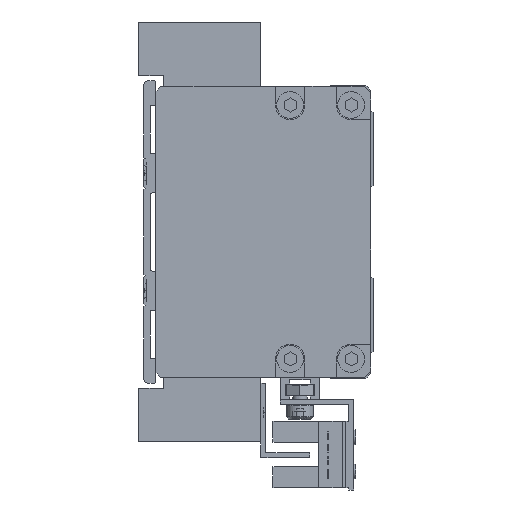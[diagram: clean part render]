
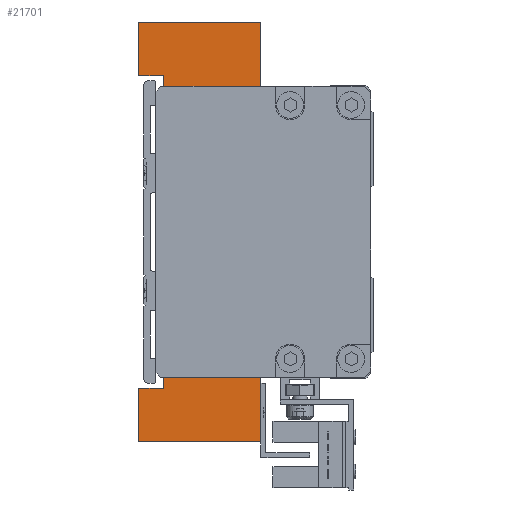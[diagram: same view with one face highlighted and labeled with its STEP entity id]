
A CAD part, left-side view. The second image highlights one B-rep face of the part: STEP entity #21701.
In plain terms, the highlighted planar face has unit normal (-1, 0, 0).
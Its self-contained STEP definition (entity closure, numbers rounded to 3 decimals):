
#416 = DIRECTION ( 'NONE',  ( 0., -1., 0. ) ) ;
#670 = CARTESIAN_POINT ( 'NONE',  ( -77., 0., -43. ) ) ;
#885 = DIRECTION ( 'NONE',  ( 0., 1., 0. ) ) ;
#915 = VERTEX_POINT ( 'NONE', #18609 ) ;
#1085 = VERTEX_POINT ( 'NONE', #670 ) ;
#1307 = ORIENTED_EDGE ( 'NONE', *, *, #30439, .F. ) ;
#1918 = ORIENTED_EDGE ( 'NONE', *, *, #12186, .F. ) ;
#2072 = CARTESIAN_POINT ( 'NONE',  ( -77., 25., 43. ) ) ;
#2617 = VECTOR ( 'NONE', #27243, 1000. ) ;
#2830 = CARTESIAN_POINT ( 'NONE',  ( -77., 25., 43. ) ) ;
#2872 = CARTESIAN_POINT ( 'NONE',  ( -77., 10., 0. ) ) ;
#3249 = ORIENTED_EDGE ( 'NONE', *, *, #38681, .F. ) ;
#3734 = VECTOR ( 'NONE', #27928, 1000. ) ;
#4198 = EDGE_CURVE ( 'NONE', #8208, #24149, #7198, .T. ) ;
#4497 = ORIENTED_EDGE ( 'NONE', *, *, #17192, .F. ) ;
#4557 = VERTEX_POINT ( 'NONE', #17381 ) ;
#5916 = VERTEX_POINT ( 'NONE', #36307 ) ;
#6155 = VERTEX_POINT ( 'NONE', #35054 ) ;
#6374 = VECTOR ( 'NONE', #32391, 1000. ) ;
#6476 = ORIENTED_EDGE ( 'NONE', *, *, #19368, .F. ) ;
#6596 = LINE ( 'NONE', #34447, #33443 ) ;
#6601 = LINE ( 'NONE', #8452, #2617 ) ;
#6798 = CARTESIAN_POINT ( 'NONE',  ( -77., 25., -32. ) ) ;
#6841 = VECTOR ( 'NONE', #17356, 1000. ) ;
#7198 = LINE ( 'NONE', #21580, #29603 ) ;
#7303 = LINE ( 'NONE', #13716, #15289 ) ;
#7795 = LINE ( 'NONE', #40515, #23751 ) ;
#8208 = VERTEX_POINT ( 'NONE', #35468 ) ;
#8452 = CARTESIAN_POINT ( 'NONE',  ( -77., 9., -21. ) ) ;
#8566 = LINE ( 'NONE', #12544, #34408 ) ;
#8587 = EDGE_CURVE ( 'NONE', #32828, #19436, #6596, .T. ) ;
#9003 = VECTOR ( 'NONE', #11705, 1000. ) ;
#9230 = VECTOR ( 'NONE', #18229, 1000. ) ;
#9699 = VERTEX_POINT ( 'NONE', #26197 ) ;
#9822 = EDGE_CURVE ( 'NONE', #19436, #30235, #21880, .T. ) ;
#9963 = CARTESIAN_POINT ( 'NONE',  ( -77., 0., 28. ) ) ;
#9986 = DIRECTION ( 'NONE',  ( 0., 0., -1. ) ) ;
#10412 = DIRECTION ( 'NONE',  ( 0., 0., 1. ) ) ;
#10501 = VERTEX_POINT ( 'NONE', #19192 ) ;
#10575 = VERTEX_POINT ( 'NONE', #26152 ) ;
#11034 = DIRECTION ( 'NONE',  ( 0., -1., 0. ) ) ;
#11705 = DIRECTION ( 'NONE',  ( 0., -1., 0. ) ) ;
#11737 = ORIENTED_EDGE ( 'NONE', *, *, #38495, .F. ) ;
#11884 = VECTOR ( 'NONE', #10412, 1000. ) ;
#12186 = EDGE_CURVE ( 'NONE', #21847, #5916, #23299, .T. ) ;
#12544 = CARTESIAN_POINT ( 'NONE',  ( -77., 9., -21. ) ) ;
#12608 = VECTOR ( 'NONE', #9986, 1000. ) ;
#12626 = PLANE ( 'NONE',  #25352 ) ;
#13265 = VERTEX_POINT ( 'NONE', #15009 ) ;
#13716 = CARTESIAN_POINT ( 'NONE',  ( -77., 10., 21. ) ) ;
#13821 = EDGE_CURVE ( 'NONE', #10501, #4557, #7795, .T. ) ;
#14106 = CARTESIAN_POINT ( 'NONE',  ( -77., 0., -28. ) ) ;
#14272 = ORIENTED_EDGE ( 'NONE', *, *, #8587, .F. ) ;
#14955 = DIRECTION ( 'NONE',  ( 0., 0., -1. ) ) ;
#15009 = CARTESIAN_POINT ( 'NONE',  ( -77., 5., 21. ) ) ;
#15289 = VECTOR ( 'NONE', #16880, 1000. ) ;
#15384 = CARTESIAN_POINT ( 'NONE',  ( -77., 20., -32. ) ) ;
#15864 = VERTEX_POINT ( 'NONE', #15384 ) ;
#16768 = CARTESIAN_POINT ( 'NONE',  ( -77., 5., 28. ) ) ;
#16880 = DIRECTION ( 'NONE',  ( 0., -1., 0. ) ) ;
#17192 = EDGE_CURVE ( 'NONE', #30235, #1085, #25514, .T. ) ;
#17356 = DIRECTION ( 'NONE',  ( 0., 0., -1. ) ) ;
#17381 = CARTESIAN_POINT ( 'NONE',  ( -77., 10., -21. ) ) ;
#18229 = DIRECTION ( 'NONE',  ( 0., 0., 1. ) ) ;
#18592 = CARTESIAN_POINT ( 'NONE',  ( -77., 20., -32. ) ) ;
#18609 = CARTESIAN_POINT ( 'NONE',  ( -77., 9., 21. ) ) ;
#19067 = LINE ( 'NONE', #16768, #20046 ) ;
#19192 = CARTESIAN_POINT ( 'NONE',  ( -77., 10., 21. ) ) ;
#19201 = CARTESIAN_POINT ( 'NONE',  ( -77., 9., -21. ) ) ;
#19304 = LINE ( 'NONE', #6798, #26768 ) ;
#19368 = EDGE_CURVE ( 'NONE', #24149, #39847, #28794, .T. ) ;
#19376 = ORIENTED_EDGE ( 'NONE', *, *, #41045, .F. ) ;
#19436 = VERTEX_POINT ( 'NONE', #20019 ) ;
#19742 = LINE ( 'NONE', #19811, #29192 ) ;
#19811 = CARTESIAN_POINT ( 'NONE',  ( -77., 0., -43. ) ) ;
#19815 = CARTESIAN_POINT ( 'NONE',  ( -77., 5., -21. ) ) ;
#20019 = CARTESIAN_POINT ( 'NONE',  ( -77., 5., -28. ) ) ;
#20039 = CARTESIAN_POINT ( 'NONE',  ( -77., 0., 28. ) ) ;
#20046 = VECTOR ( 'NONE', #29282, 1000. ) ;
#20340 = DIRECTION ( 'NONE',  ( 0., -1., 0. ) ) ;
#20509 = ORIENTED_EDGE ( 'NONE', *, *, #32865, .T. ) ;
#20822 = CARTESIAN_POINT ( 'NONE',  ( -77., 0., 43. ) ) ;
#20894 = CARTESIAN_POINT ( 'NONE',  ( -77., 9., 21. ) ) ;
#21580 = CARTESIAN_POINT ( 'NONE',  ( -77., 20., 32. ) ) ;
#21701 = ADVANCED_FACE ( 'NONE', ( #33215 ), #12626, .F. ) ;
#21847 = VERTEX_POINT ( 'NONE', #9963 ) ;
#21880 = LINE ( 'NONE', #30100, #24886 ) ;
#22136 = ORIENTED_EDGE ( 'NONE', *, *, #4198, .F. ) ;
#22159 = ORIENTED_EDGE ( 'NONE', *, *, #36739, .F. ) ;
#22654 = LINE ( 'NONE', #18592, #3734 ) ;
#23299 = LINE ( 'NONE', #20039, #6374 ) ;
#23751 = VECTOR ( 'NONE', #14955, 1000. ) ;
#24149 = VERTEX_POINT ( 'NONE', #28889 ) ;
#24885 = EDGE_LOOP ( 'NONE', ( #20509, #36374, #19376, #1918, #3249, #22159, #6476, #22136, #40812, #11737, #1307, #27178, #4497, #39237, #14272, #37155, #24981, #37809 ) ) ;
#24886 = VECTOR ( 'NONE', #11034, 1000. ) ;
#24981 = ORIENTED_EDGE ( 'NONE', *, *, #36226, .T. ) ;
#25352 = AXIS2_PLACEMENT_3D ( 'NONE', #2872, #34697, #34826 ) ;
#25514 = LINE ( 'NONE', #32078, #12608 ) ;
#25679 = LINE ( 'NONE', #20894, #28179 ) ;
#25991 = CARTESIAN_POINT ( 'NONE',  ( -77., 25., 32. ) ) ;
#26152 = CARTESIAN_POINT ( 'NONE',  ( -77., 0., 43. ) ) ;
#26197 = CARTESIAN_POINT ( 'NONE',  ( -77., 25., -32. ) ) ;
#26768 = VECTOR ( 'NONE', #416, 1000. ) ;
#27178 = ORIENTED_EDGE ( 'NONE', *, *, #30133, .F. ) ;
#27243 = DIRECTION ( 'NONE',  ( 0., -1., 0. ) ) ;
#27928 = DIRECTION ( 'NONE',  ( 0., 0., 1. ) ) ;
#27987 = DIRECTION ( 'NONE',  ( 0., 1., 0. ) ) ;
#28179 = VECTOR ( 'NONE', #20340, 1000. ) ;
#28794 = LINE ( 'NONE', #25991, #11884 ) ;
#28889 = CARTESIAN_POINT ( 'NONE',  ( -77., 25., 32. ) ) ;
#29192 = VECTOR ( 'NONE', #885, 1000. ) ;
#29282 = DIRECTION ( 'NONE',  ( 0., 0., -1. ) ) ;
#29603 = VECTOR ( 'NONE', #27987, 1000. ) ;
#30100 = CARTESIAN_POINT ( 'NONE',  ( -77., 5., -28. ) ) ;
#30133 = EDGE_CURVE ( 'NONE', #1085, #6155, #19742, .T. ) ;
#30235 = VERTEX_POINT ( 'NONE', #14106 ) ;
#30439 = EDGE_CURVE ( 'NONE', #6155, #9699, #34112, .T. ) ;
#30650 = CARTESIAN_POINT ( 'NONE',  ( -77., 25., -43. ) ) ;
#32008 = EDGE_CURVE ( 'NONE', #33428, #32828, #6601, .T. ) ;
#32078 = CARTESIAN_POINT ( 'NONE',  ( -77., 0., -28. ) ) ;
#32391 = DIRECTION ( 'NONE',  ( 0., 1., 0. ) ) ;
#32828 = VERTEX_POINT ( 'NONE', #19815 ) ;
#32865 = EDGE_CURVE ( 'NONE', #10501, #915, #7303, .T. ) ;
#33005 = EDGE_CURVE ( 'NONE', #915, #13265, #25679, .T. ) ;
#33215 = FACE_OUTER_BOUND ( 'NONE', #24885, .T. ) ;
#33428 = VERTEX_POINT ( 'NONE', #19201 ) ;
#33443 = VECTOR ( 'NONE', #40447, 1000. ) ;
#33675 = LINE ( 'NONE', #20822, #6841 ) ;
#33756 = EDGE_CURVE ( 'NONE', #15864, #8208, #22654, .T. ) ;
#34112 = LINE ( 'NONE', #30650, #9230 ) ;
#34408 = VECTOR ( 'NONE', #34738, 1000. ) ;
#34447 = CARTESIAN_POINT ( 'NONE',  ( -77., 5., -21. ) ) ;
#34697 = DIRECTION ( 'NONE',  ( 1., 0., 0. ) ) ;
#34738 = DIRECTION ( 'NONE',  ( 0., 1., 0. ) ) ;
#34826 = DIRECTION ( 'NONE',  ( 0., 0., -1. ) ) ;
#35054 = CARTESIAN_POINT ( 'NONE',  ( -77., 25., -43. ) ) ;
#35468 = CARTESIAN_POINT ( 'NONE',  ( -77., 20., 32. ) ) ;
#36226 = EDGE_CURVE ( 'NONE', #33428, #4557, #8566, .T. ) ;
#36307 = CARTESIAN_POINT ( 'NONE',  ( -77., 5., 28. ) ) ;
#36374 = ORIENTED_EDGE ( 'NONE', *, *, #33005, .T. ) ;
#36739 = EDGE_CURVE ( 'NONE', #39847, #10575, #40844, .T. ) ;
#37155 = ORIENTED_EDGE ( 'NONE', *, *, #32008, .F. ) ;
#37809 = ORIENTED_EDGE ( 'NONE', *, *, #13821, .F. ) ;
#38495 = EDGE_CURVE ( 'NONE', #9699, #15864, #19304, .T. ) ;
#38681 = EDGE_CURVE ( 'NONE', #10575, #21847, #33675, .T. ) ;
#39237 = ORIENTED_EDGE ( 'NONE', *, *, #9822, .F. ) ;
#39847 = VERTEX_POINT ( 'NONE', #2830 ) ;
#40447 = DIRECTION ( 'NONE',  ( 0., 0., -1. ) ) ;
#40515 = CARTESIAN_POINT ( 'NONE',  ( -77., 10., 21. ) ) ;
#40812 = ORIENTED_EDGE ( 'NONE', *, *, #33756, .F. ) ;
#40844 = LINE ( 'NONE', #2072, #9003 ) ;
#41045 = EDGE_CURVE ( 'NONE', #5916, #13265, #19067, .T. ) ;
